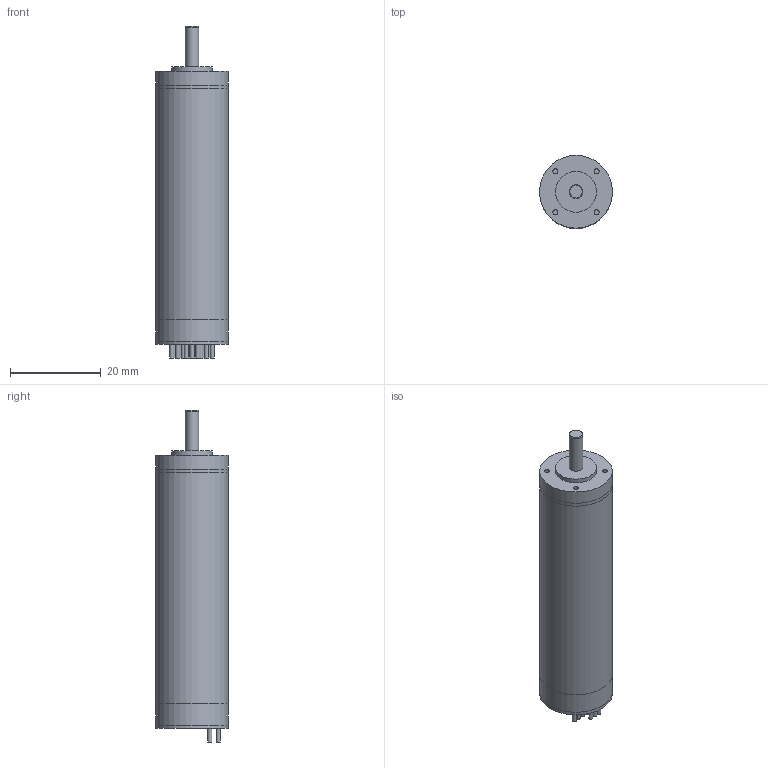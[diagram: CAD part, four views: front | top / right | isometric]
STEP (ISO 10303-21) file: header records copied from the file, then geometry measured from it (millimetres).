
FILE_DESCRIPTION(/* description */ (''),/* implementation_level */ '2;1');
FILE_NAME(/* name */ '1660.BHS.stp',/* time_stamp */ '2018-04-16T08:06:57+02:00',/* author */ ('DR. FRITZ FAULHABER GmbH & Co. KG'),/* organization */ ('DR. FRITZ FAULHABER GmbH & Co. KG'),/* preprocessor_version */ 'ST-DEVELOPER v16',/* originating_system */ 'SIEMENS PLM Software NX 10.0',/* authorisation */ '');
FILE_SCHEMA (('AUTOMOTIVE_DESIGN { 1 0 10303 214 3 1 1 1 }'));
Length unit declared in the file: millimetre
Products named in the file (1): Alle_Motoren
Bounding box: 16 x 16 x 73 mm (x, y, z)
Volume: 12202.9 mm3; surface area: 3674.2 mm2
Topology: 1 solids, 1 shells, 67 faces, 141 edges, 94 vertices
Faces by surface type: plane 34, cylinder 32, cone 1
Full cylindrical faces by diameter (mm): 0.9 x3, 1.1 x4, 3 x1, 9 x1, 15.999 x4, 16 x5
Entity records: 1740 total; most frequent: DIRECTION 322, CARTESIAN_POINT 282, ORIENTED_EDGE 242, AXIS2_PLACEMENT_3D 133, EDGE_CURVE 121, EDGE_LOOP 104, VERTEX_POINT 93, ADVANCED_FACE 67
